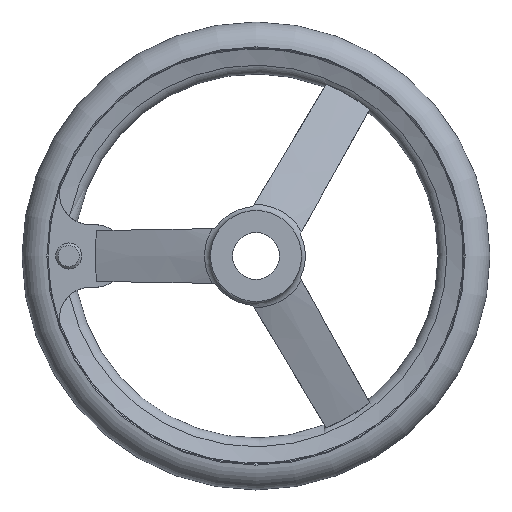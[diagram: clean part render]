
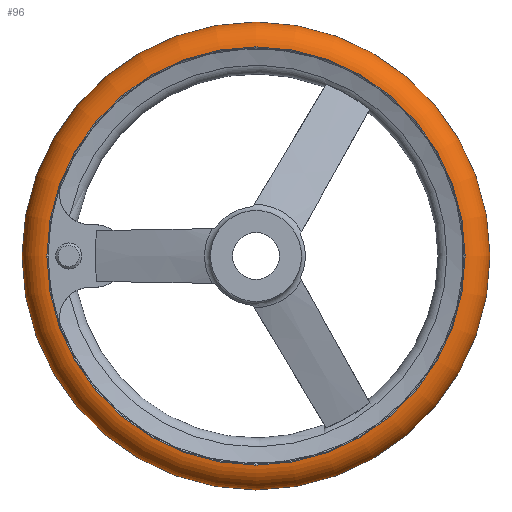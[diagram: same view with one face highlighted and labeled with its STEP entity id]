
A CAD part, left-side view. The second image highlights one B-rep face of the part: STEP entity #96.
In plain terms, the highlighted toroidal (fillet/blend) face has major radius 79.991 mm and minor radius 10.009 mm.
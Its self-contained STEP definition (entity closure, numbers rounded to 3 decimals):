
#96 = ADVANCED_FACE( '', ( #178, #179, #180 ), #181, .T. );
#178 = FACE_BOUND( '', #330, .T. );
#179 = FACE_OUTER_BOUND( '', #331, .T. );
#180 = FACE_OUTER_BOUND( '', #332, .T. );
#181 = TOROIDAL_SURFACE( '', #333, 79.991, 10.009 );
#330 = VERTEX_LOOP( '', #565 );
#331 = EDGE_LOOP( '', ( #566 ) );
#332 = EDGE_LOOP( '', ( #567 ) );
#333 = AXIS2_PLACEMENT_3D( '', #568, #569, #570 );
#565 = VERTEX_POINT( '', #821 );
#566 = ORIENTED_EDGE( '', *, *, #822, .T. );
#567 = ORIENTED_EDGE( '', *, *, #823, .F. );
#568 = CARTESIAN_POINT( '', ( 33., 0., 0. ) );
#569 = DIRECTION( '', ( 1., 0., 0. ) );
#570 = DIRECTION( '', ( 0., 1., 0. ) );
#821 = CARTESIAN_POINT( '', ( 33., 90., 0. ) );
#822 = EDGE_CURVE( '', #992, #992, #993, .T. );
#823 = EDGE_CURVE( '', #994, #994, #995, .T. );
#992 = VERTEX_POINT( '', #1553 );
#993 = CIRCLE( '', #1554, 80.417 );
#994 = VERTEX_POINT( '', #1555 );
#995 = CIRCLE( '', #1556, 80.417 );
#1553 = CARTESIAN_POINT( '', ( 23., 80.417, 0. ) );
#1554 = AXIS2_PLACEMENT_3D( '', #1760, #1761, #1762 );
#1555 = CARTESIAN_POINT( '', ( 43., 80.417, 0. ) );
#1556 = AXIS2_PLACEMENT_3D( '', #1763, #1764, #1765 );
#1760 = CARTESIAN_POINT( '', ( 23., 0., 0. ) );
#1761 = DIRECTION( '', ( 1., 0., 0. ) );
#1762 = DIRECTION( '', ( 0., 1., 0. ) );
#1763 = CARTESIAN_POINT( '', ( 43., 0., 0. ) );
#1764 = DIRECTION( '', ( 1., 0., 0. ) );
#1765 = DIRECTION( '', ( 0., 1., 0. ) );
